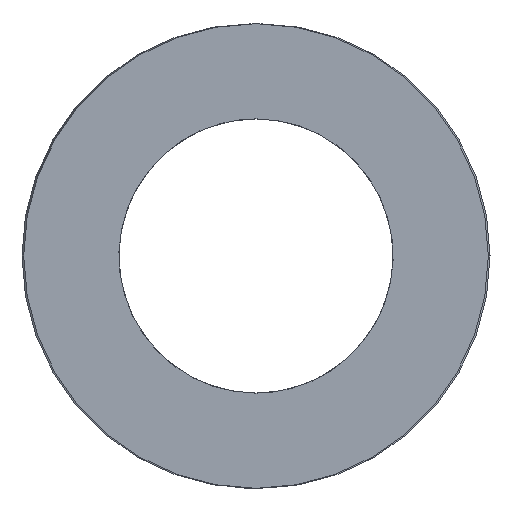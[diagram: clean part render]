
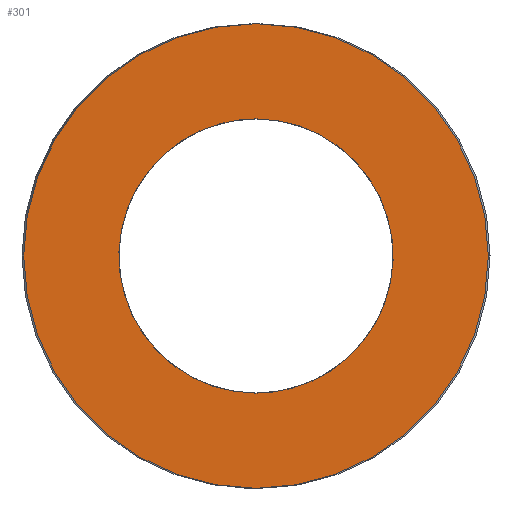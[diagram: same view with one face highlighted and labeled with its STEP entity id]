
A CAD part, left-side view. The second image highlights one B-rep face of the part: STEP entity #301.
In plain terms, the highlighted planar face has unit normal (-1, 0, 0).
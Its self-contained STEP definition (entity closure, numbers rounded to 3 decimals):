
#63=CARTESIAN_POINT('Vertex',(0.,6.1,0.)) ;
#77=CARTESIAN_POINT('Vertex',(0.,-6.1,0.)) ;
#80=CARTESIAN_POINT('Axis2P3D Location',(0.,0.,0.)) ;
#97=CARTESIAN_POINT('Axis2P3D Location',(0.,0.,0.)) ;
#232=CARTESIAN_POINT('Axis2P3D Location',(0.,3.05,0.)) ;
#242=CARTESIAN_POINT('Control Point',(0.,0.,-3.6)) ;
#243=CARTESIAN_POINT('Control Point',(0.,0.372,-3.6)) ;
#244=CARTESIAN_POINT('Control Point',(0.,0.744,-3.552)) ;
#245=CARTESIAN_POINT('Control Point',(0.,1.107,-3.456)) ;
#246=CARTESIAN_POINT('Control Point',(0.,1.801,-3.172)) ;
#247=CARTESIAN_POINT('Control Point',(0.,2.4,-2.722)) ;
#248=CARTESIAN_POINT('Control Point',(0.,2.669,-2.459)) ;
#249=CARTESIAN_POINT('Control Point',(0.,3.133,-1.869)) ;
#250=CARTESIAN_POINT('Control Point',(0.,3.431,-1.182)) ;
#251=CARTESIAN_POINT('Control Point',(0.,3.535,-0.82)) ;
#252=CARTESIAN_POINT('Control Point',(0.,3.647,-0.079)) ;
#253=CARTESIAN_POINT('Control Point',(0.,3.567,0.667)) ;
#254=CARTESIAN_POINT('Control Point',(0.,3.479,1.032)) ;
#255=CARTESIAN_POINT('Control Point',(0.,3.21,1.732)) ;
#256=CARTESIAN_POINT('Control Point',(0.,2.773,2.341)) ;
#257=CARTESIAN_POINT('Control Point',(0.,2.516,2.615)) ;
#258=CARTESIAN_POINT('Control Point',(0.,1.937,3.092)) ;
#259=CARTESIAN_POINT('Control Point',(0.,1.255,3.405)) ;
#260=CARTESIAN_POINT('Control Point',(0.,0.896,3.517)) ;
#261=CARTESIAN_POINT('Control Point',(0.,0.496,3.586)) ;
#262=CARTESIAN_POINT('Control Point',(0.,0.093,3.599)) ;
#263=CARTESIAN_POINT('Control Point',(0.,0.062,3.6)) ;
#264=CARTESIAN_POINT('Control Point',(0.,0.031,3.6)) ;
#265=CARTESIAN_POINT('Control Point',(0.,0.,3.6)) ;
#266=CARTESIAN_POINT('Vertex',(0.,0.,-3.6)) ;
#268=CARTESIAN_POINT('Vertex',(0.,0.,3.6)) ;
#272=CARTESIAN_POINT('Control Point',(0.,0.,3.6)) ;
#273=CARTESIAN_POINT('Control Point',(0.,-0.372,3.6)) ;
#274=CARTESIAN_POINT('Control Point',(0.,-0.744,3.552)) ;
#275=CARTESIAN_POINT('Control Point',(0.,-1.107,3.456)) ;
#276=CARTESIAN_POINT('Control Point',(0.,-1.801,3.172)) ;
#277=CARTESIAN_POINT('Control Point',(0.,-2.4,2.722)) ;
#278=CARTESIAN_POINT('Control Point',(0.,-2.669,2.459)) ;
#279=CARTESIAN_POINT('Control Point',(0.,-3.133,1.869)) ;
#280=CARTESIAN_POINT('Control Point',(0.,-3.431,1.182)) ;
#281=CARTESIAN_POINT('Control Point',(0.,-3.535,0.82)) ;
#282=CARTESIAN_POINT('Control Point',(0.,-3.647,0.079)) ;
#283=CARTESIAN_POINT('Control Point',(0.,-3.567,-0.667)) ;
#284=CARTESIAN_POINT('Control Point',(0.,-3.479,-1.032)) ;
#285=CARTESIAN_POINT('Control Point',(0.,-3.21,-1.732)) ;
#286=CARTESIAN_POINT('Control Point',(0.,-2.773,-2.341)) ;
#287=CARTESIAN_POINT('Control Point',(0.,-2.516,-2.615)) ;
#288=CARTESIAN_POINT('Control Point',(0.,-1.937,-3.092)) ;
#289=CARTESIAN_POINT('Control Point',(0.,-1.255,-3.405)) ;
#290=CARTESIAN_POINT('Control Point',(0.,-0.896,-3.517)) ;
#291=CARTESIAN_POINT('Control Point',(0.,-0.496,-3.586)) ;
#292=CARTESIAN_POINT('Control Point',(0.,-0.093,-3.599)) ;
#293=CARTESIAN_POINT('Control Point',(0.,-0.062,-3.6)) ;
#294=CARTESIAN_POINT('Control Point',(0.,-0.031,-3.6)) ;
#295=CARTESIAN_POINT('Control Point',(0.,0.,-3.6)) ;
#81=DIRECTION('Axis2P3D Direction',(1.,-0.,0.)) ;
#98=DIRECTION('Axis2P3D Direction',(1.,-0.,0.)) ;
#233=DIRECTION('Axis2P3D Direction',(-1.,0.,0.)) ;
#234=DIRECTION('Axis2P3D XDirection',(0.,1.,0.)) ;
#82=AXIS2_PLACEMENT_3D('Circle Axis2P3D',#80,#81,$) ;
#99=AXIS2_PLACEMENT_3D('Circle Axis2P3D',#97,#98,$) ;
#235=AXIS2_PLACEMENT_3D('Plane Axis2P3D',#232,#233,#234) ;
#238=ORIENTED_EDGE('',*,*,#84,.T.) ;
#239=ORIENTED_EDGE('',*,*,#101,.T.) ;
#298=ORIENTED_EDGE('',*,*,#270,.T.) ;
#299=ORIENTED_EDGE('',*,*,#296,.T.) ;
#300=FACE_BOUND('',#297,.T.) ;
#301=ADVANCED_FACE('392-B13-051',(#240,#300),#236,.T.) ;
#241=B_SPLINE_CURVE_WITH_KNOTS('',5,(#242,#243,#244,#245,#246,#247,#248,#249,#250,#251,#252,#253,#254,#255,#256,#257,#258,#259,#260,#261,#262,#263,#264,#265),.UNSPECIFIED.,.F.,.U.,(6,3,3,3,3,3,3,6),(0.,2.629,5.258,7.887,10.516,13.145,15.774,15.994),.UNSPECIFIED.) ;
#271=B_SPLINE_CURVE_WITH_KNOTS('',5,(#272,#273,#274,#275,#276,#277,#278,#279,#280,#281,#282,#283,#284,#285,#286,#287,#288,#289,#290,#291,#292,#293,#294,#295),.UNSPECIFIED.,.F.,.U.,(6,3,3,3,3,3,3,6),(0.,2.629,5.258,7.887,10.516,13.145,15.774,15.994),.UNSPECIFIED.) ;
#83=CIRCLE('generated circle',#82,6.1) ;
#100=CIRCLE('generated circle',#99,6.1) ;
#84=EDGE_CURVE('',#64,#78,#83,.F.) ;
#101=EDGE_CURVE('',#78,#64,#100,.F.) ;
#270=EDGE_CURVE('',#267,#269,#241,.T.) ;
#296=EDGE_CURVE('',#269,#267,#271,.T.) ;
#237=EDGE_LOOP('',(#238,#239)) ;
#297=EDGE_LOOP('',(#298,#299)) ;
#240=FACE_OUTER_BOUND('',#237,.T.) ;
#236=PLANE('Plane',#235) ;
#64=VERTEX_POINT('',#63) ;
#78=VERTEX_POINT('',#77) ;
#267=VERTEX_POINT('',#266) ;
#269=VERTEX_POINT('',#268) ;
